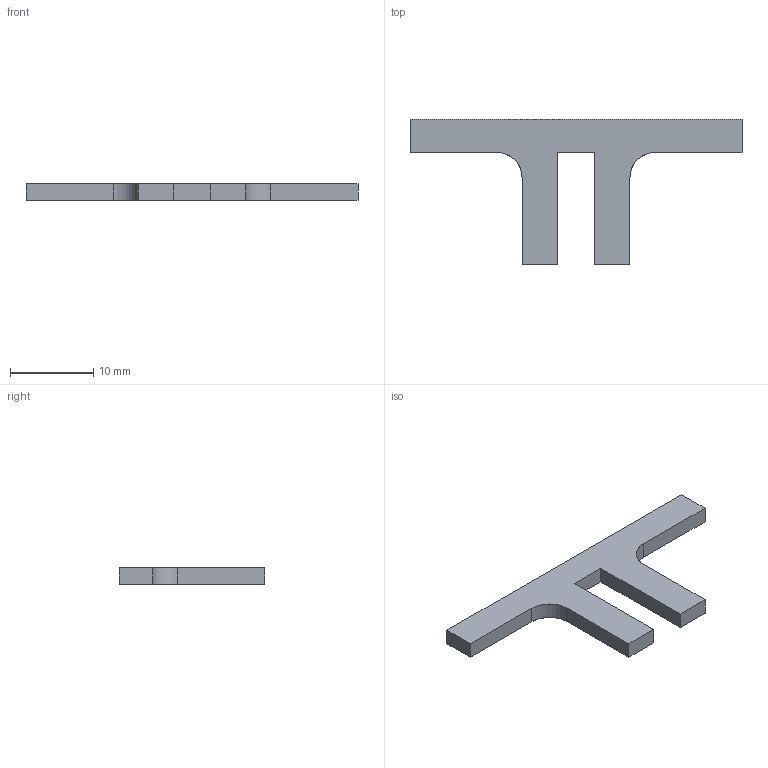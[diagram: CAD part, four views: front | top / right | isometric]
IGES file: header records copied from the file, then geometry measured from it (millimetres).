
Start section: SolidWorks IGES file using analytic representation for surfaces
Global section: file name: C:\Documents and Settings\URETIM3\Desktop\yeni katalog tolgay düzenli\E kataloðu\TCAL PROFÝL ALPOLEN 1000\206 DOT 001.IGS; native system: SolidWorks 2006 by SolidWorks Corporation; preprocessor: SolidWorks 2006 by SolidWorks Corporation; author: URETIM3; date: 060912.160630; units: millimetre
Bounding box: 40 x 17.5 x 2 mm (x, y, z)
Surface area: 836.1 mm2 (no closed solid volume)
Topology: 0 solids, 0 shells, 16 faces, 112 edges, 112 vertices
Faces by surface type: bspline 14, revolution 2
